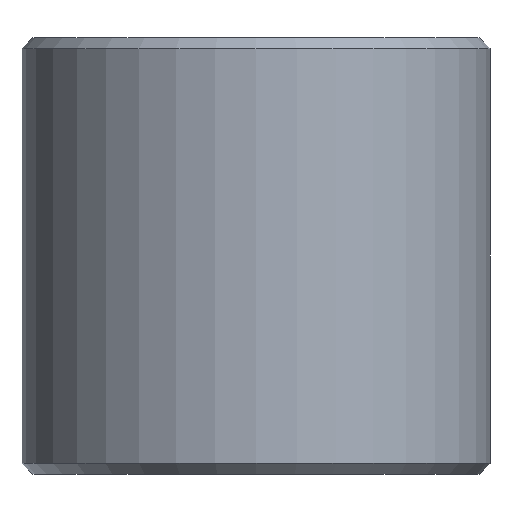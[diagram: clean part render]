
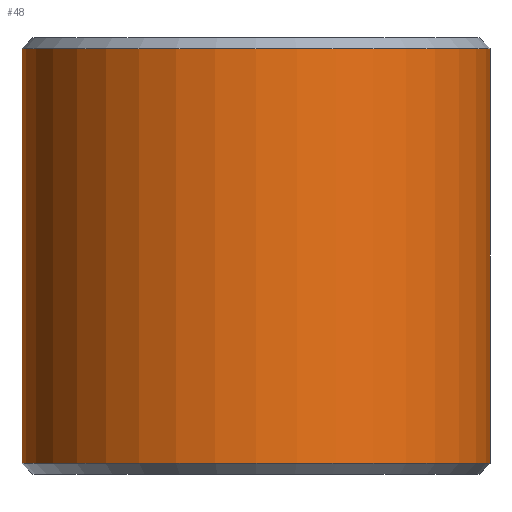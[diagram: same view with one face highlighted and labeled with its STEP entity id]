
A CAD part, front view. The second image highlights one B-rep face of the part: STEP entity #48.
In plain terms, the highlighted cylindrical face has radius 30 mm (diameter 60 mm), a partial arc.
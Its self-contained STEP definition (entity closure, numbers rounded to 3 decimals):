
#9 = CIRCLE ( 'NONE', #103, 30. ) ;
#14 = CARTESIAN_POINT ( 'NONE',  ( -30., 0., 28. ) ) ;
#15 = CARTESIAN_POINT ( 'NONE',  ( 0., 0., 28. ) ) ;
#48 = ADVANCED_FACE ( 'NONE', ( #322 ), #436, .T. ) ;
#50 = DIRECTION ( 'NONE',  ( -1., 0., 0. ) ) ;
#55 = DIRECTION ( 'NONE',  ( 0., 0., -1. ) ) ;
#59 = EDGE_CURVE ( 'NONE', #182, #398, #431, .T. ) ;
#91 = LINE ( 'NONE', #14, #256 ) ;
#103 = AXIS2_PLACEMENT_3D ( 'NONE', #407, #301, #121 ) ;
#110 = ORIENTED_EDGE ( 'NONE', *, *, #307, .F. ) ;
#118 = VERTEX_POINT ( 'NONE', #281 ) ;
#121 = DIRECTION ( 'NONE',  ( 1., 0., 0. ) ) ;
#156 = DIRECTION ( 'NONE',  ( 0., 0., -1. ) ) ;
#159 = CARTESIAN_POINT ( 'NONE',  ( 30., 0., 28. ) ) ;
#163 = CARTESIAN_POINT ( 'NONE',  ( 0., 0., 26.6 ) ) ;
#182 = VERTEX_POINT ( 'NONE', #383 ) ;
#231 = DIRECTION ( 'NONE',  ( 1., 0., 0. ) ) ;
#256 = VECTOR ( 'NONE', #367, 1000. ) ;
#266 = CARTESIAN_POINT ( 'NONE',  ( -30., 0., 26.6 ) ) ;
#267 = EDGE_CURVE ( 'NONE', #389, #118, #9, .T. ) ;
#270 = AXIS2_PLACEMENT_3D ( 'NONE', #163, #55, #231 ) ;
#281 = CARTESIAN_POINT ( 'NONE',  ( 30., 0., -26.6 ) ) ;
#290 = DIRECTION ( 'NONE',  ( 0., 0., -1. ) ) ;
#295 = LINE ( 'NONE', #159, #299 ) ;
#299 = VECTOR ( 'NONE', #156, 1000. ) ;
#301 = DIRECTION ( 'NONE',  ( 0., 0., 1. ) ) ;
#304 = AXIS2_PLACEMENT_3D ( 'NONE', #15, #290, #50 ) ;
#307 = EDGE_CURVE ( 'NONE', #182, #118, #295, .T. ) ;
#322 = FACE_OUTER_BOUND ( 'NONE', #433, .T. ) ;
#331 = ORIENTED_EDGE ( 'NONE', *, *, #267, .T. ) ;
#356 = ORIENTED_EDGE ( 'NONE', *, *, #379, .T. ) ;
#367 = DIRECTION ( 'NONE',  ( 0., 0., -1. ) ) ;
#369 = CARTESIAN_POINT ( 'NONE',  ( -30., 0., -26.6 ) ) ;
#379 = EDGE_CURVE ( 'NONE', #398, #389, #91, .T. ) ;
#383 = CARTESIAN_POINT ( 'NONE',  ( 30., 0., 26.6 ) ) ;
#389 = VERTEX_POINT ( 'NONE', #369 ) ;
#391 = ORIENTED_EDGE ( 'NONE', *, *, #59, .T. ) ;
#398 = VERTEX_POINT ( 'NONE', #266 ) ;
#407 = CARTESIAN_POINT ( 'NONE',  ( 0., 0., -26.6 ) ) ;
#431 = CIRCLE ( 'NONE', #270, 30. ) ;
#433 = EDGE_LOOP ( 'NONE', ( #110, #391, #356, #331 ) ) ;
#436 = CYLINDRICAL_SURFACE ( 'NONE', #304, 30. ) ;
